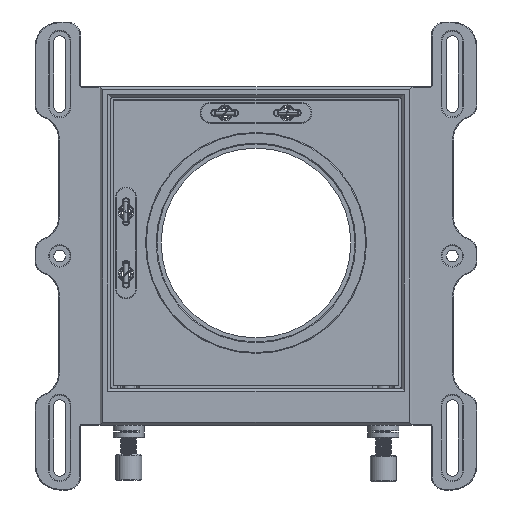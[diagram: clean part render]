
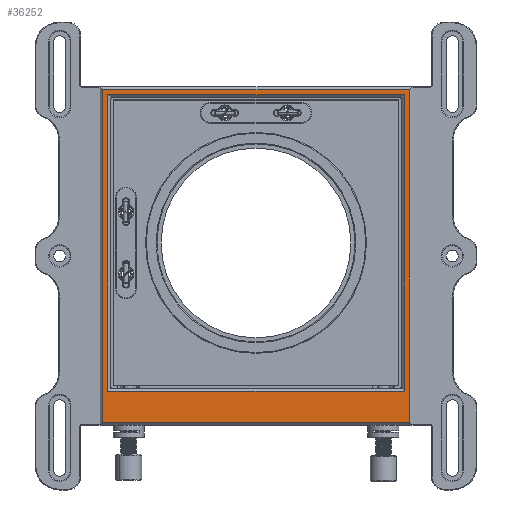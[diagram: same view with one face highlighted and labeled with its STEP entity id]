
A CAD part, top view. The second image highlights one B-rep face of the part: STEP entity #36252.
In plain terms, the highlighted planar face has unit normal (0, 0, 1).
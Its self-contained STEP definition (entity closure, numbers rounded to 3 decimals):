
#95 = DIRECTION ( 'NONE',  ( 0., 1., 0. ) ) ;
#120 = ORIENTED_EDGE ( 'NONE', *, *, #12722, .T. ) ;
#815 = VERTEX_POINT ( 'NONE', #12293 ) ;
#2145 = CARTESIAN_POINT ( 'NONE',  ( 57., 62., 15. ) ) ;
#3761 = DIRECTION ( 'NONE',  ( -1., 0., 0. ) ) ;
#4231 = VERTEX_POINT ( 'NONE', #2145 ) ;
#4574 = LINE ( 'NONE', #10001, #11935 ) ;
#6272 = EDGE_CURVE ( 'NONE', #30941, #22562, #38741, .T. ) ;
#7891 = DIRECTION ( 'NONE',  ( 1., 0., 0. ) ) ;
#7976 = ORIENTED_EDGE ( 'NONE', *, *, #6272, .T. ) ;
#9329 = DIRECTION ( 'NONE',  ( 1., 0., 0. ) ) ;
#9528 = EDGE_CURVE ( 'NONE', #815, #30941, #35309, .T. ) ;
#9657 = ORIENTED_EDGE ( 'NONE', *, *, #45253, .T. ) ;
#10001 = CARTESIAN_POINT ( 'NONE',  ( 57., -51., 15. ) ) ;
#11412 = ORIENTED_EDGE ( 'NONE', *, *, #32494, .T. ) ;
#11935 = VECTOR ( 'NONE', #13339, 1000. ) ;
#12293 = CARTESIAN_POINT ( 'NONE',  ( 59., 64., 15. ) ) ;
#12656 = VERTEX_POINT ( 'NONE', #18828 ) ;
#12722 = EDGE_CURVE ( 'NONE', #4231, #37709, #4574, .T. ) ;
#12757 = EDGE_LOOP ( 'NONE', ( #43055, #11412, #120, #9657 ) ) ;
#12879 = PLANE ( 'NONE',  #18917 ) ;
#13339 = DIRECTION ( 'NONE',  ( 0., -1., 0. ) ) ;
#14712 = LINE ( 'NONE', #25618, #17632 ) ;
#15384 = ORIENTED_EDGE ( 'NONE', *, *, #39654, .T. ) ;
#17079 = VERTEX_POINT ( 'NONE', #45933 ) ;
#17290 = CARTESIAN_POINT ( 'NONE',  ( -60., 64., 15. ) ) ;
#17632 = VECTOR ( 'NONE', #40565, 1000. ) ;
#18828 = CARTESIAN_POINT ( 'NONE',  ( 59., -64., 15. ) ) ;
#18917 = AXIS2_PLACEMENT_3D ( 'NONE', #37558, #23561, #9329 ) ;
#19030 = LINE ( 'NONE', #22115, #35990 ) ;
#19337 = LINE ( 'NONE', #26918, #37875 ) ;
#20659 = CARTESIAN_POINT ( 'NONE',  ( -59., -64., 15. ) ) ;
#22115 = CARTESIAN_POINT ( 'NONE',  ( 56., 62., 15. ) ) ;
#22562 = VERTEX_POINT ( 'NONE', #20659 ) ;
#23561 = DIRECTION ( 'NONE',  ( 0., 0., 1. ) ) ;
#24389 = VECTOR ( 'NONE', #3761, 1000. ) ;
#25618 = CARTESIAN_POINT ( 'NONE',  ( 60., -64., 15. ) ) ;
#25807 = EDGE_CURVE ( 'NONE', #22562, #12656, #14712, .T. ) ;
#26918 = CARTESIAN_POINT ( 'NONE',  ( -57., 61., 15. ) ) ;
#27118 = FACE_BOUND ( 'NONE', #12757, .T. ) ;
#27188 = CARTESIAN_POINT ( 'NONE',  ( -59., 64., 15. ) ) ;
#27594 = CARTESIAN_POINT ( 'NONE',  ( -59., -65., 15. ) ) ;
#29648 = ORIENTED_EDGE ( 'NONE', *, *, #25807, .T. ) ;
#30941 = VERTEX_POINT ( 'NONE', #27188 ) ;
#32086 = DIRECTION ( 'NONE',  ( 0., -1., 0. ) ) ;
#32240 = LINE ( 'NONE', #36260, #24389 ) ;
#32494 = EDGE_CURVE ( 'NONE', #43012, #4231, #19030, .T. ) ;
#32994 = ORIENTED_EDGE ( 'NONE', *, *, #9528, .T. ) ;
#33244 = EDGE_LOOP ( 'NONE', ( #7976, #29648, #15384, #32994 ) ) ;
#33552 = DIRECTION ( 'NONE',  ( 0., 1., 0. ) ) ;
#34317 = VECTOR ( 'NONE', #46248, 1000. ) ;
#35309 = LINE ( 'NONE', #17290, #34317 ) ;
#35707 = VECTOR ( 'NONE', #95, 1000. ) ;
#35990 = VECTOR ( 'NONE', #7891, 1000. ) ;
#36252 = ADVANCED_FACE ( 'NONE', ( #27118, #45174 ), #12879, .T. ) ;
#36260 = CARTESIAN_POINT ( 'NONE',  ( -56., -52., 15. ) ) ;
#37533 = CARTESIAN_POINT ( 'NONE',  ( -57., 62., 15. ) ) ;
#37558 = CARTESIAN_POINT ( 'NONE',  ( 0., 0., 15. ) ) ;
#37709 = VERTEX_POINT ( 'NONE', #45211 ) ;
#37875 = VECTOR ( 'NONE', #33552, 1000. ) ;
#38741 = LINE ( 'NONE', #27594, #40337 ) ;
#39654 = EDGE_CURVE ( 'NONE', #12656, #815, #43304, .T. ) ;
#40337 = VECTOR ( 'NONE', #32086, 1000. ) ;
#40565 = DIRECTION ( 'NONE',  ( 1., 0., 0. ) ) ;
#41180 = EDGE_CURVE ( 'NONE', #17079, #43012, #19337, .T. ) ;
#43012 = VERTEX_POINT ( 'NONE', #37533 ) ;
#43055 = ORIENTED_EDGE ( 'NONE', *, *, #41180, .T. ) ;
#43304 = LINE ( 'NONE', #46637, #35707 ) ;
#45174 = FACE_OUTER_BOUND ( 'NONE', #33244, .T. ) ;
#45211 = CARTESIAN_POINT ( 'NONE',  ( 57., -52., 15. ) ) ;
#45253 = EDGE_CURVE ( 'NONE', #37709, #17079, #32240, .T. ) ;
#45933 = CARTESIAN_POINT ( 'NONE',  ( -57., -52., 15. ) ) ;
#46248 = DIRECTION ( 'NONE',  ( -1., 0., 0. ) ) ;
#46637 = CARTESIAN_POINT ( 'NONE',  ( 59., 65., 15. ) ) ;
